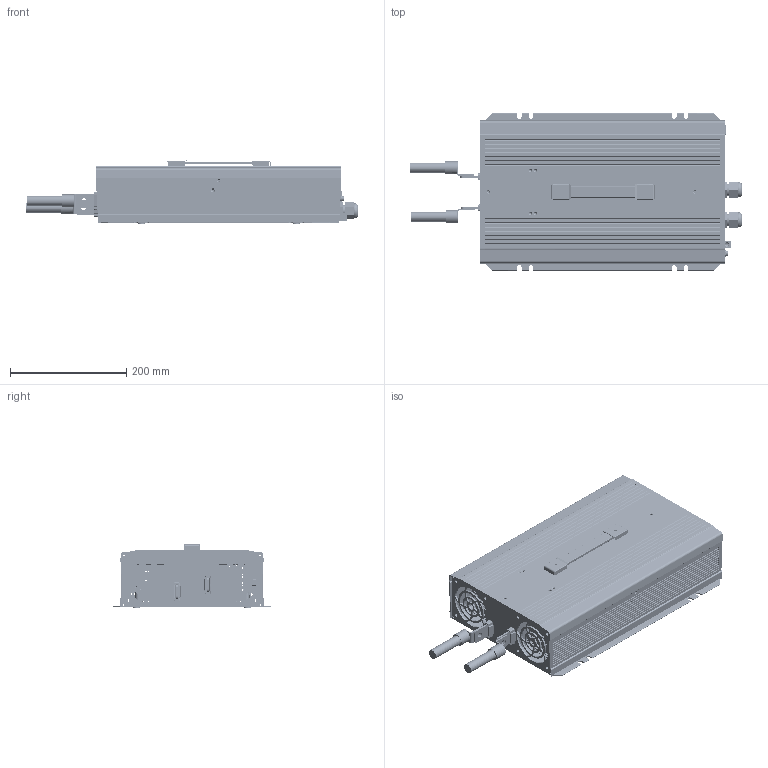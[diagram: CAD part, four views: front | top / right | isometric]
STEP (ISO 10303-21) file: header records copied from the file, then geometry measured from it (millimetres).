
FILE_DESCRIPTION(('Creo Elements/Direct Modeling STEP Export'),'2;1');
FILE_NAME('NTU-3200-AU.stp','2022-03-28T19:37:22',(''),(''),'PTC Creo Elements/Direct Modeling STEP processor for AP214 (Solid Model)','PTC Creo Elements/Direct Modeling 19.0E 27-Jun-2016 (C) Parametric Technology GmbH','');
FILE_SCHEMA(('AUTOMOTIVE_DESIGN { 1 0 10303 214 1 1 1 1 }'));
Length unit declared in the file: millimetre
Products named in the file (228): 零件9; 零件8; 零件7; 零件6; 零件5; 零件4; 零件3; 零件2; 零件12; 零件11; 零件10; 零件1; 电容; 欧插片; open_shell.1; guwei1.1; guwei1; ____-____1_2_.PRT; ____-____1_1_.PRT; ____-____15.PRT; ____-____11_2_.PRT; ____-____10_2_.PRT; ___U-_Y_T4.PRT; _S_4_X2_0192_X0__S__S_6_S___S_U; _S_4_X2_0192_X0__S_; _M4-0_5_-_____1_.PRT; _E05-001XX_-_____-___X1_.PRT; TO220.21; TO220.9; TO220.8; TO220.7; TO220.6; TO220.5; TO220.4; TO220.3; TO220.20; TO220.2; TO220.19; TO220.18; TO220.17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
Assembly tree (129 placements, depth 2):
  零件9
  零件8
  零件7
  零件6
  零件5
    零件5
Bounding box: 570.16 x 270 x 108.65 mm (x, y, z)
Volume: 2371024.7 mm3; surface area: 2024057.1 mm2
Topology: 149 solids, 152 shells, 7347 faces, 19962 edges, 13202 vertices
Faces by surface type: plane 4457, cylinder 2462, cone 252, torus 140, bspline 31, sphere 4, extrusion 1
Entity records: 187224 total; most frequent: CARTESIAN_POINT 40343, ORIENTED_EDGE 29537, DIRECTION 26845, EDGE_CURVE 14771, VECTOR 10485, LINE 10484, VERTEX_POINT 9743, AXIS2_PLACEMENT_3D 8180
